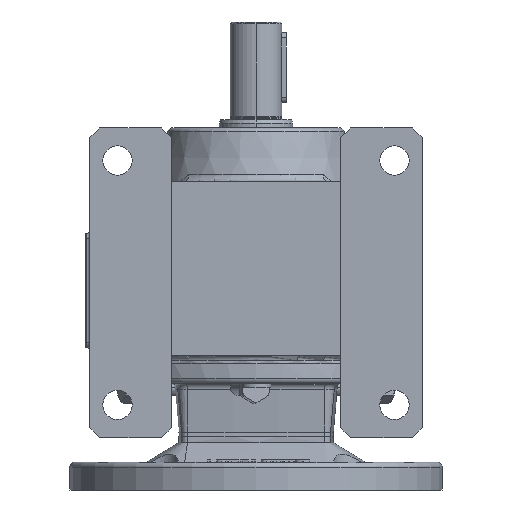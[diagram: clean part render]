
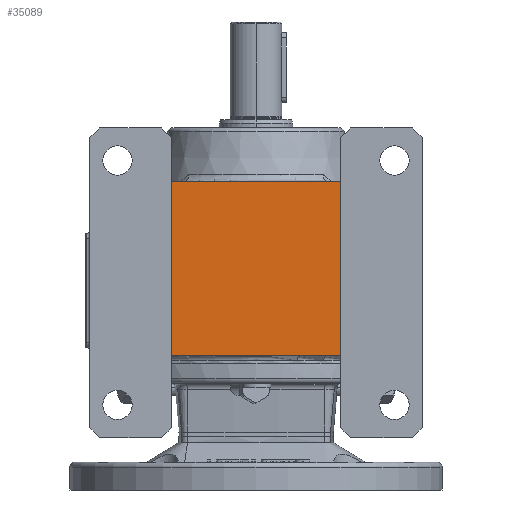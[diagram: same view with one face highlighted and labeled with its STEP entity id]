
A CAD part, front view. The second image highlights one B-rep face of the part: STEP entity #35089.
In plain terms, the highlighted planar face has unit normal (0, -1, 0).
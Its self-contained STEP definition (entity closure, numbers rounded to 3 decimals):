
#1105 = CARTESIAN_POINT ( 'NONE',  ( -52., -87., -107. ) ) ;
#1106 = CARTESIAN_POINT ( 'NONE',  ( 52., -87., -107. ) ) ;
#1107 = CARTESIAN_POINT ( 'NONE',  ( 52., -87., 0. ) ) ;
#1108 = CARTESIAN_POINT ( 'NONE',  ( -52., -87., 0. ) ) ;
#4809 = LINE ( 'NONE', #4810, #49105 ) ;
#4810 = CARTESIAN_POINT ( 'NONE',  ( 52., -87., -22. ) ) ;
#4811 = DIRECTION ( 'NONE',  ( 0., 0., -1. ) ) ;
#4812 = LINE ( 'NONE', #4813, #49106 ) ;
#4813 = CARTESIAN_POINT ( 'NONE',  ( -102., -87., -107. ) ) ;
#4814 = DIRECTION ( 'NONE',  ( 1., 0., 0. ) ) ;
#4815 = LINE ( 'NONE', #4816, #49107 ) ;
#4816 = CARTESIAN_POINT ( 'NONE',  ( -114.086, -87., 0. ) ) ;
#4817 = DIRECTION ( 'NONE',  ( -1., 0., 0. ) ) ;
#4818 = LINE ( 'NONE', #4819, #49108 ) ;
#4819 = CARTESIAN_POINT ( 'NONE',  ( -52., -87., -22. ) ) ;
#4820 = DIRECTION ( 'NONE',  ( 0., 0., 1. ) ) ;
#23879 = AXIS2_PLACEMENT_3D ( 'NONE', #44126, #44127, #44128 ) ;
#23881 = FACE_OUTER_BOUND ( 'NONE', #51469, .T. ) ;
#35089 = ADVANCED_FACE ( 'NONE', ( #23881 ), #44125, .F. ) ;
#42731 = VERTEX_POINT ( 'NONE', #1105 ) ;
#42732 = VERTEX_POINT ( 'NONE', #1106 ) ;
#42733 = VERTEX_POINT ( 'NONE', #1107 ) ;
#42734 = VERTEX_POINT ( 'NONE', #1108 ) ;
#44125 = PLANE ( 'NONE',  #23879 ) ;
#44126 = CARTESIAN_POINT ( 'NONE',  ( -114.086, -87., -112. ) ) ;
#44127 = DIRECTION ( 'NONE',  ( 0., 1., 0. ) ) ;
#44128 = DIRECTION ( 'NONE',  ( 0., 0., 1. ) ) ;
#49105 = VECTOR ( 'NONE', #4811, 1000. ) ;
#49106 = VECTOR ( 'NONE', #4814, 1000. ) ;
#49107 = VECTOR ( 'NONE', #4817, 1000. ) ;
#49108 = VECTOR ( 'NONE', #4820, 1000. ) ;
#49857 = EDGE_CURVE ( 'NONE', #42733, #42732, #4809, .T. ) ;
#49858 = EDGE_CURVE ( 'NONE', #42731, #42732, #4812, .T. ) ;
#49859 = EDGE_CURVE ( 'NONE', #42733, #42734, #4815, .T. ) ;
#49860 = EDGE_CURVE ( 'NONE', #42731, #42734, #4818, .T. ) ;
#51469 = EDGE_LOOP ( 'NONE', ( #68970, #68973, #68972, #68974 ) ) ;
#68970 = ORIENTED_EDGE ( 'NONE', *, *, #49858, .T. ) ;
#68972 = ORIENTED_EDGE ( 'NONE', *, *, #49859, .T. ) ;
#68973 = ORIENTED_EDGE ( 'NONE', *, *, #49857, .F. ) ;
#68974 = ORIENTED_EDGE ( 'NONE', *, *, #49860, .F. ) ;
